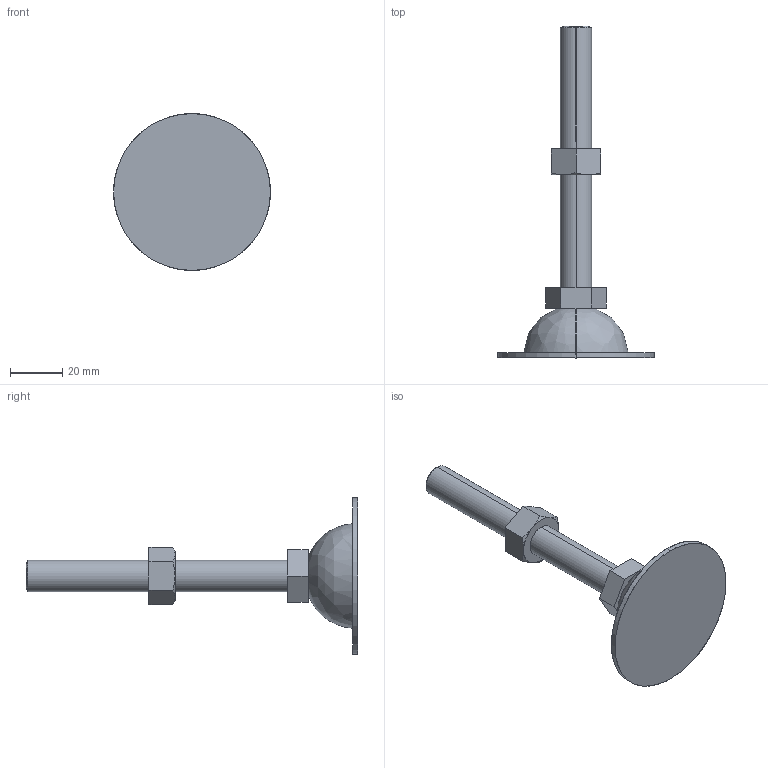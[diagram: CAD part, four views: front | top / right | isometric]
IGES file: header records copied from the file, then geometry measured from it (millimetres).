
Start section: SolidWorks IGES file using analytic representation for surfaces
Global section: file name: C:\Users\admin\Desktop\IGES\J3LF12.igs; native system: SolidWorks 2014; preprocessor: SolidWorks 2014; author: admin_pc; date: 170524.165921; units: millimetre
Bounding box: 60 x 127 x 60 mm (x, y, z)
Surface area: 13184.4 mm2 (no closed solid volume)
Topology: 0 solids, 0 shells, 41 faces, 626 edges, 626 vertices
Faces by surface type: bspline 21, revolution 20
